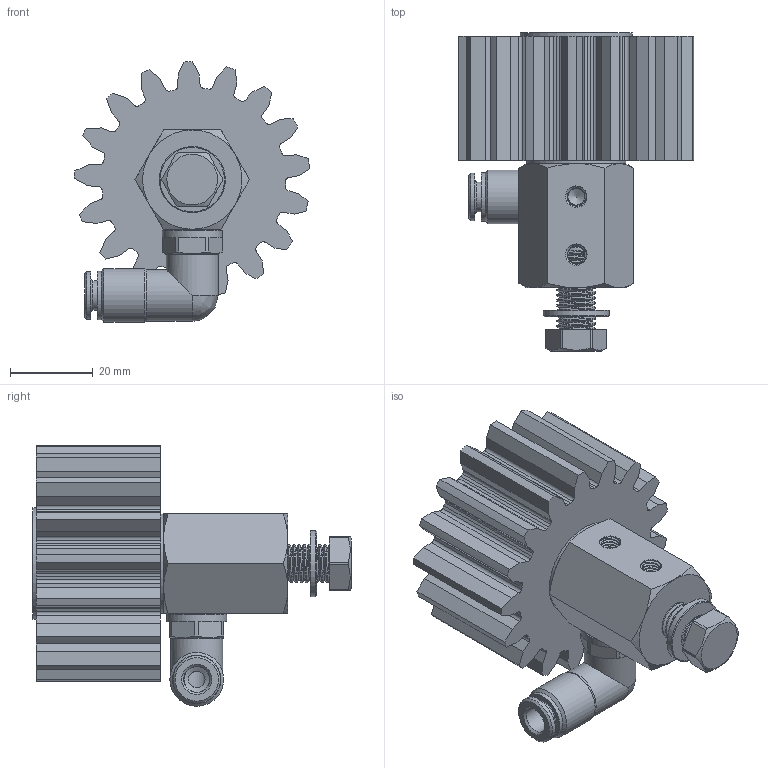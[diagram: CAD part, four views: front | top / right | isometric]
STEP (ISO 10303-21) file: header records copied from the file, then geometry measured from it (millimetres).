
FILE_DESCRIPTION (( 'STEP AP214' ), '1' );
FILE_NAME ('012_13_03_30_17BZ.STEP', '2026-04-08T12:21:07', ( '' ), ( '' ), 'SwSTEP 2.0', 'SolidWorks 2022', '' );
FILE_SCHEMA (( 'AUTOMOTIVE_DESIGN' ));
Length unit declared in the file: millimetre
Products named in the file (13): 12012_06_01_Scheibe-CRS-VA_27.SLDASM; RIVOLUZIONE_0_2; 012_06_Senkschraube; OR 7.2X1.9_1; H202242_HDS022_6_M10X1_08.05.17(1); DR6-C_HDX_25.07.16_1; 12012_06_00_Scheibe-CRS-VA.SLDASM; Schraube_M8_20; Schmierzahnrad_03_30_17G; RH202242; 012_13_03_30_17BZ; U_Scheibe_8,4; 012_13b_01_winklige_Achse_lang_M8_1
Assembly tree (12 placements, depth 3):
  012_13_03_30_17BZ
    012_13b_01_winklige_Achse_lang_M8_1
    Schraube_M8_20
    U_Scheibe_8,4
    H202242_HDS022_6_M10X1_08.05.17(1)
      OR 7.2X1.9_1
      RH202242
      DR6-C_HDX_25.07.16_1
      RIVOLUZIONE_0_2
    12012_06_00_Scheibe-CRS-VA.SLDASM
    12012_06_01_Scheibe-CRS-VA_27.SLDASM
    012_06_Senkschraube
    Schmierzahnrad_03_30_17G
Bounding box: 56.88 x 76.9 x 63 mm (x, y, z)
Volume: 81120.3 mm3; surface area: 26999.8 mm2
Topology: 11 solids, 11 shells, 700 faces, 1911 edges, 1267 vertices
Faces by surface type: plane 420, bspline 116, cylinder 107, cone 54, torus 3
Full cylindrical faces by diameter (mm): 3 x1, 4 x2, 5.5 x1, 6 x1, 6.2 x1, 6.3 x1, 6.5 x1, 7.2 x1, 8.4 x1, 8.5 x1, 9 x10, 9.9 x1, 10 x3, 10.1 x2, 10.3 x1, 11.5 x1, 11.7 x1, 12.5 x2, 13 x1, 14.5 x1, 16 x1, 24 x1, 27 x1
Entity records: 44016 total; most frequent: CARTESIAN_POINT 26665, ORIENTED_EDGE 3526, DIRECTION 2825, EDGE_CURVE 1763, VERTEX_POINT 1202, LINE 1147, VECTOR 1147, AXIS2_PLACEMENT_3D 839
